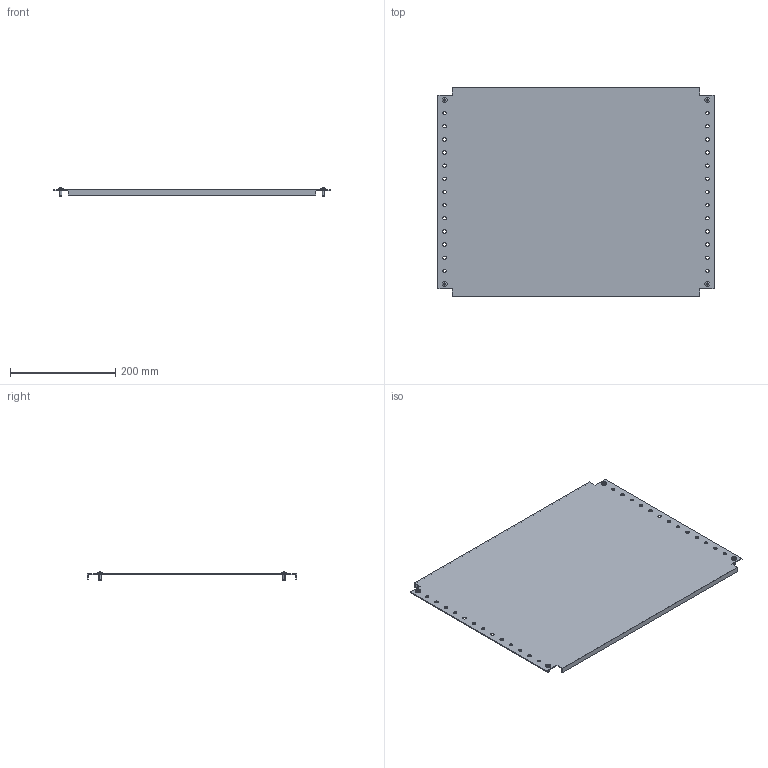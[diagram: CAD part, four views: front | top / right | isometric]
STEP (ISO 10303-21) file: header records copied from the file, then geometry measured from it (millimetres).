
FILE_DESCRIPTION (( 'STEP AP203' ), '1' );
FILE_NAME ('R6MPP04600.STEP', '2025-05-16T08:14:23', ( '' ), ( '' ), 'SwSTEP 2.0', 'SolidWorks 2022', '' );
FILE_SCHEMA (( 'CONFIG_CONTROL_DESIGN' ));
Length unit declared in the file: millimetre
Products named in the file (3): R6MPP04600; RB.3313.00.00.0 simple_-12; M5x12 DIN 7500 C Torx Zinc_stright
Assembly tree (5 placements, depth 2):
  R6MPP04600
    RB.3313.00.00.0 simple_-12
    M5x12 DIN 7500 C Torx Zinc_stright  x4
Bounding box: 525 x 398 x 15.56 mm (x, y, z)
Volume: 386984.2 mm3; surface area: 434302.7 mm2
Topology: 5 solids, 5 shells, 182 faces, 452 edges, 276 vertices
Faces by surface type: cylinder 76, plane 58, cone 16, torus 16, bspline 8, sphere 8
Entity records: 4239 total; most frequent: CARTESIAN_POINT 825, DIRECTION 670, ORIENTED_EDGE 600, EDGE_CURVE 300, AXIS2_PLACEMENT_3D 264, VERTEX_POINT 195, EDGE_LOOP 171, CIRCLE 148
